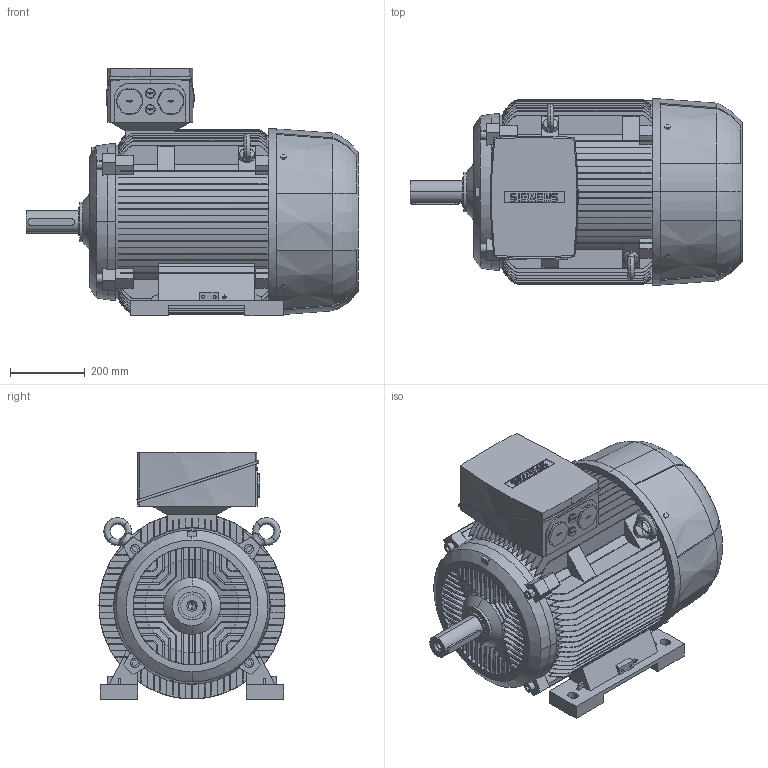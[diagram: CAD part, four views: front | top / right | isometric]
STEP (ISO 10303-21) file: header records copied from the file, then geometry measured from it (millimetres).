
FILE_DESCRIPTION(('STEP AP214'),'1');
FILE_NAME('cctmp_2557D5BC-7D87-4944-AF28-AFD433BED706_2020_6_3_12_21_55_992..stp','2020-06-03T10:21:57',('SIEMENS A&D'),('CADClick - www.CADClick.com'),'Spatial InterOp 3D',' ','unknown authorization');
FILE_SCHEMA(('AUTOMOTIVE_DESIGN'));
Length unit declared in the file: millimetre
Products named in the file (1): 1
Bounding box: 887 x 497 x 660 mm (x, y, z)
Volume: 123445976.5 mm3; surface area: 4292730.6 mm2
Topology: 7 solids, 7 shells, 1451 faces, 4114 edges, 2716 vertices
Faces by surface type: plane 898, cylinder 327, torus 196, cone 30
Entity records: 74057 total; most frequent: CARTESIAN_POINT 25534, ORIENTED_EDGE 8224, DIRECTION 7062, EDGE_CURVE 4112, VERTEX_POINT 2716, AXIS2_PLACEMENT_3D 2354, LINE 2354, VECTOR 2354
